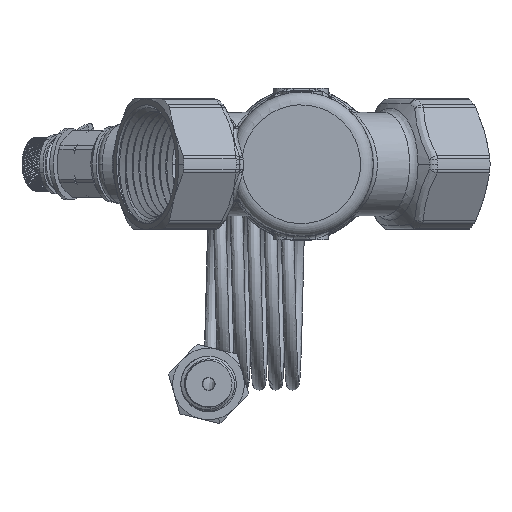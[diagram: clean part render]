
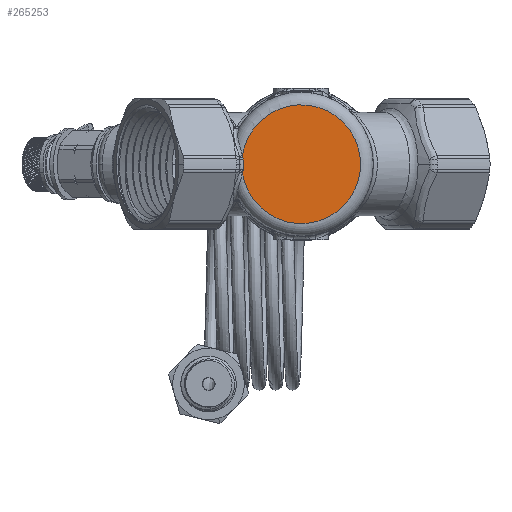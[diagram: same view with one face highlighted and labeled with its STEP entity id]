
A CAD part, front view. The second image highlights one B-rep face of the part: STEP entity #265253.
In plain terms, the highlighted planar face has unit normal (0, -1, 0).
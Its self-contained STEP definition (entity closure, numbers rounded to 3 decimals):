
#1630 = CARTESIAN_POINT ( 'NONE',  ( -18.969, -57.3, -1.088 ) ) ;
#2648 = CARTESIAN_POINT ( 'NONE',  ( -16.295, -57.3, 1.236 ) ) ;
#2862 = ORIENTED_EDGE ( 'NONE', *, *, #218092, .T. ) ;
#16775 = EDGE_LOOP ( 'NONE', ( #211443, #349559, #21225, #2862, #264433, #268731 ) ) ;
#17031 = DIRECTION ( 'NONE',  ( 0., -1., 0. ) ) ;
#21225 = ORIENTED_EDGE ( 'NONE', *, *, #217470, .T. ) ;
#22138 = CARTESIAN_POINT ( 'NONE',  ( -16.365, -57.3, 1.711 ) ) ;
#22287 = DIRECTION ( 'NONE',  ( 1., 0., 0. ) ) ;
#30882 = DIRECTION ( 'NONE',  ( 0., 1., 0. ) ) ;
#32432 = DIRECTION ( 'NONE',  ( 0., 1., 0. ) ) ;
#35363 = AXIS2_PLACEMENT_3D ( 'NONE', #1630, #30882, #116833 ) ;
#51519 = FACE_OUTER_BOUND ( 'NONE', #16775, .T. ) ;
#56209 = CARTESIAN_POINT ( 'NONE',  ( -16.391, -57.3, 1.821 ) ) ;
#63791 = CARTESIAN_POINT ( 'NONE',  ( -16.295, -57.3, -1.236 ) ) ;
#69576 = VERTEX_POINT ( 'NONE', #22138 ) ;
#77368 = DIRECTION ( 'NONE',  ( -1., 0., 0. ) ) ;
#80962 = EDGE_CURVE ( 'NONE', #214831, #215019, #339253, .T. ) ;
#98404 = EDGE_CURVE ( 'NONE', #215019, #159481, #269970, .T. ) ;
#114252 = CARTESIAN_POINT ( 'NONE',  ( -16.249, -57.3, 0.413 ) ) ;
#116595 = CARTESIAN_POINT ( 'NONE',  ( -18.969, -57.3, 1.088 ) ) ;
#116833 = DIRECTION ( 'NONE',  ( 1., 0., 0. ) ) ;
#133123 = CARTESIAN_POINT ( 'NONE',  ( -16.365, -57.3, 1.711 ) ) ;
#135640 = CARTESIAN_POINT ( 'NONE',  ( -16.391, -57.3, -1.821 ) ) ;
#147727 = B_SPLINE_CURVE_WITH_KNOTS ( 'NONE', 3,
 ( #2648, #114252, #225831, #339369 ),
 .UNSPECIFIED., .F., .F.,
 ( 4, 4 ),
 ( 0., 0.002 ),
 .UNSPECIFIED. ) ;
#159481 = VERTEX_POINT ( 'NONE', #273835 ) ;
#163321 = CARTESIAN_POINT ( 'NONE',  ( -2.5, -57.3, 0. ) ) ;
#164012 = CIRCLE ( 'NONE', #275097, 14.1 ) ;
#167822 = CARTESIAN_POINT ( 'NONE',  ( -16.452, -57.3, 2.041 ) ) ;
#177766 = AXIS2_PLACEMENT_3D ( 'NONE', #273007, #214408, #22287 ) ;
#179808 = AXIS2_PLACEMENT_3D ( 'NONE', #116595, #32432, #250252 ) ;
#189833 = CARTESIAN_POINT ( 'NONE',  ( -16.42, -57.3, 1.931 ) ) ;
#192138 = EDGE_CURVE ( 'NONE', #69576, #194481, #337748, .T. ) ;
#194153 = CARTESIAN_POINT ( 'NONE',  ( -16.365, -57.3, -1.711 ) ) ;
#194481 = VERTEX_POINT ( 'NONE', #301503 ) ;
#211443 = ORIENTED_EDGE ( 'NONE', *, *, #80962, .T. ) ;
#213646 = B_SPLINE_CURVE_WITH_KNOTS ( 'NONE', 3,
 ( #167822, #189833, #56209, #133123 ),
 .UNSPECIFIED., .F., .F.,
 ( 4, 4 ),
 ( 0., 0. ),
 .UNSPECIFIED. ) ;
#214408 = DIRECTION ( 'NONE',  ( 0., 1., 0. ) ) ;
#214831 = VERTEX_POINT ( 'NONE', #63791 ) ;
#215019 = VERTEX_POINT ( 'NONE', #233868 ) ;
#217470 = EDGE_CURVE ( 'NONE', #159481, #320437, #164012, .T. ) ;
#218092 = EDGE_CURVE ( 'NONE', #320437, #69576, #213646, .T. ) ;
#225831 = CARTESIAN_POINT ( 'NONE',  ( -16.249, -57.3, -0.413 ) ) ;
#233868 = CARTESIAN_POINT ( 'NONE',  ( -16.365, -57.3, -1.711 ) ) ;
#239922 = EDGE_CURVE ( 'NONE', #194481, #214831, #147727, .T. ) ;
#250252 = DIRECTION ( 'NONE',  ( 1., 0., 0. ) ) ;
#264433 = ORIENTED_EDGE ( 'NONE', *, *, #192138, .T. ) ;
#265253 = ADVANCED_FACE ( 'NONE', ( #51519 ), #298674, .F. ) ;
#268731 = ORIENTED_EDGE ( 'NONE', *, *, #239922, .T. ) ;
#269970 = B_SPLINE_CURVE_WITH_KNOTS ( 'NONE', 3,
 ( #194153, #135640, #309472, #304032 ),
 .UNSPECIFIED., .F., .F.,
 ( 4, 4 ),
 ( 0., 0. ),
 .UNSPECIFIED. ) ;
#273007 = CARTESIAN_POINT ( 'NONE',  ( -2.5, -57.3, 0. ) ) ;
#273835 = CARTESIAN_POINT ( 'NONE',  ( -16.452, -57.3, -2.041 ) ) ;
#275097 = AXIS2_PLACEMENT_3D ( 'NONE', #163321, #17031, #77368 ) ;
#298674 = PLANE ( 'NONE',  #177766 ) ;
#298821 = CARTESIAN_POINT ( 'NONE',  ( -16.452, -57.3, 2.041 ) ) ;
#301503 = CARTESIAN_POINT ( 'NONE',  ( -16.295, -57.3, 1.236 ) ) ;
#304032 = CARTESIAN_POINT ( 'NONE',  ( -16.452, -57.3, -2.041 ) ) ;
#309472 = CARTESIAN_POINT ( 'NONE',  ( -16.42, -57.3, -1.931 ) ) ;
#320437 = VERTEX_POINT ( 'NONE', #298821 ) ;
#337748 = CIRCLE ( 'NONE', #179808, 2.678 ) ;
#339253 = CIRCLE ( 'NONE', #35363, 2.678 ) ;
#339369 = CARTESIAN_POINT ( 'NONE',  ( -16.295, -57.3, -1.236 ) ) ;
#349559 = ORIENTED_EDGE ( 'NONE', *, *, #98404, .T. ) ;
